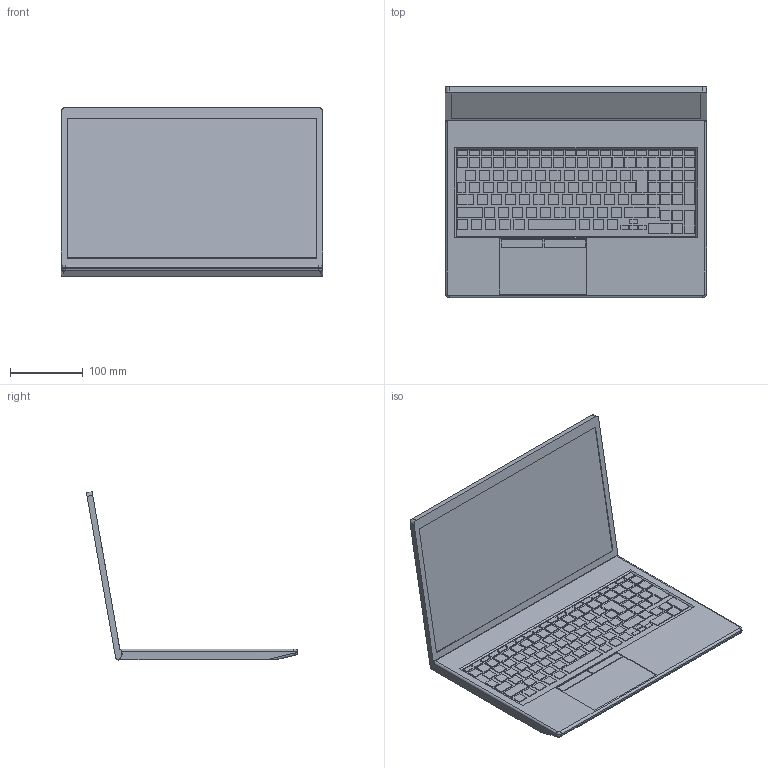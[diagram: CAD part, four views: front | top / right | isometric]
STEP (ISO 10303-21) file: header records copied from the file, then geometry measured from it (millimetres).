
FILE_DESCRIPTION(/* description */ ('ノートＰＣ（ｈｐ）'),/* implementation_level */ '2;1');
FILE_NAME(/* name */ 'C:\Users\Fujimoto-s\OneDrive\Inventor\WorkSpace\\X2\305D306E4ED6\X0\\ホームページ用\\X2\30C030A630F330ED30FC30C97D206750\X0\\ＰＣ関係\\X2\30A230C330D730ED30FC30C97528\X0\\ノートＰＣ\ノートPC.stp',/* time_stamp */ '2024-08-13T17:11:00+09:00',/* author */ ('Fujimoto-s'),/* organization */ (''),/* preprocessor_version */ 'ST-DEVELOPER v15.2',/* originating_system */ 'Autodesk Inventor 2014',/* authorisation */ '');
FILE_SCHEMA (('AUTOMOTIVE_DESIGN { 1 0 10303 214 3 1 1 }'));
Length unit declared in the file: millimetre
Products named in the file (1): ノートPC
Bounding box: 360 x 291.12 x 232.28 mm (x, y, z)
Volume: 1812877.1 mm3; surface area: 378384.9 mm2
Topology: 2 solids, 2 shells, 661 faces, 1585 edges, 1054 vertices
Faces by surface type: plane 644, cylinder 13, bspline 4
Entity records: 18880 total; most frequent: CARTESIAN_POINT 3393, ORIENTED_EDGE 3170, DIRECTION 2927, EDGE_CURVE 1585, LINE 1555, VECTOR 1555, VERTEX_POINT 1054, EDGE_LOOP 787
